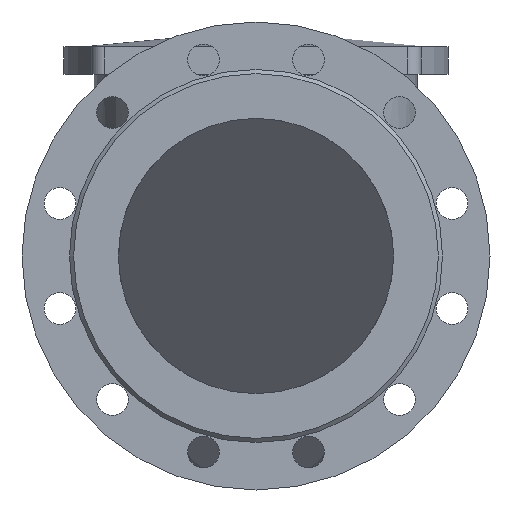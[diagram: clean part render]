
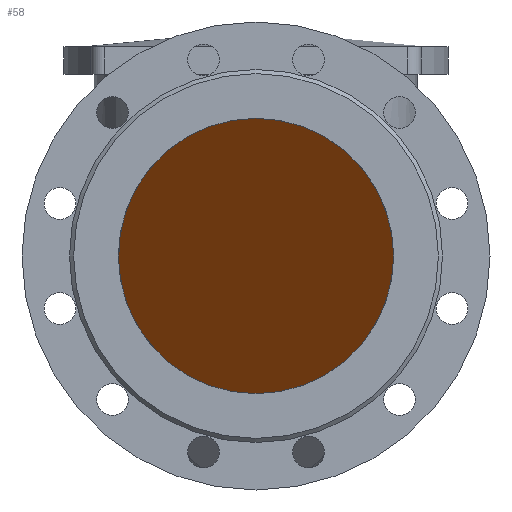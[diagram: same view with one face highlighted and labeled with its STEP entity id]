
A CAD part, front view. The second image highlights one B-rep face of the part: STEP entity #58.
In plain terms, the highlighted planar face has unit normal (0, -0.707, -0.707).
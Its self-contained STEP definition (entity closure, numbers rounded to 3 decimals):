
#58=ADVANCED_FACE('',(#734),#736,.T.);
#734=FACE_BOUND('',#735,.T.);
#735=EDGE_LOOP('',(#2633));
#736=PLANE('',#737);
#737=AXIS2_PLACEMENT_3D('',#738,#739,#740);
#738=CARTESIAN_POINT('',(-170.,-134.235,134.235));
#739=DIRECTION('',(0.,-0.707,-0.707));
#740=DIRECTION('',(0.,0.707,-0.707));
#2633=ORIENTED_EDGE('',*,*,#2934,.T.);
#2934=EDGE_CURVE('',#3081,#3081,#3082,.F.);
#3081=VERTEX_POINT('',#3340);
#3082=(BOUNDED_CURVE()B_SPLINE_CURVE(3,
(#3341,#3342,#3343,#3344,#3345,#3346,#3347),
.UNSPECIFIED.,.T.,.F.)B_SPLINE_CURVE_WITH_KNOTS((4,3,4),
(0.,0.5,1.),
.UNSPECIFIED.)CURVE()GEOMETRIC_REPRESENTATION_ITEM()RATIONAL_B_SPLINE_CURVE((1.,
0.333,0.333,1.,0.333,0.333,1.))
REPRESENTATION_ITEM(''));
#3340=CARTESIAN_POINT('',(0.,-100.,100.));
#3341=CARTESIAN_POINT('',(0.,-100.,100.));
#3342=CARTESIAN_POINT('',(200.,-100.,100.));
#3343=CARTESIAN_POINT('',(200.,100.,-100.));
#3344=CARTESIAN_POINT('',(0.,100.,-100.));
#3345=CARTESIAN_POINT('',(-200.,100.,-100.));
#3346=CARTESIAN_POINT('',(-200.,-100.,100.));
#3347=CARTESIAN_POINT('',(0.,-100.,100.));
